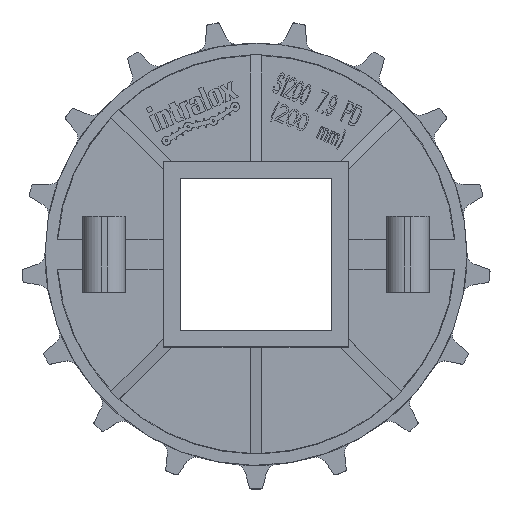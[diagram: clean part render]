
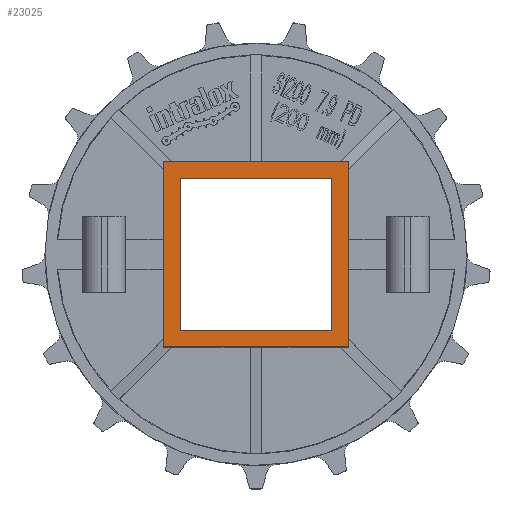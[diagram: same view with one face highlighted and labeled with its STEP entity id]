
A CAD part, top view. The second image highlights one B-rep face of the part: STEP entity #23025.
In plain terms, the highlighted planar face has unit normal (0, 0, 1).
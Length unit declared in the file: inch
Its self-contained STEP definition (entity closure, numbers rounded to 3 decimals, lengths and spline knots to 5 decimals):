
#6284=DIRECTION('',(-1.,0.,0.));
#6285=VECTOR('',#6284,3.05);
#6286=CARTESIAN_POINT('',(1.525,1.525,0.74));
#6287=LINE('',#6286,#6285);
#6288=DIRECTION('',(0.,1.,0.));
#6289=VECTOR('',#6288,3.05);
#6290=CARTESIAN_POINT('',(1.525,-1.525,0.74));
#6291=LINE('',#6290,#6289);
#6292=DIRECTION('',(1.,0.,0.));
#6293=VECTOR('',#6292,3.05);
#6294=CARTESIAN_POINT('',(-1.525,-1.525,0.74));
#6295=LINE('',#6294,#6293);
#6296=DIRECTION('',(0.,-1.,0.));
#6297=VECTOR('',#6296,3.05);
#6298=CARTESIAN_POINT('',(-1.525,1.525,0.74));
#6299=LINE('',#6298,#6297);
#6300=DIRECTION('',(0.,-1.,0.));
#6301=VECTOR('',#6300,2.5);
#6302=CARTESIAN_POINT('',(-1.25,1.25,0.74));
#6303=LINE('',#6302,#6301);
#6304=DIRECTION('',(1.,0.,0.));
#6305=VECTOR('',#6304,2.5);
#6306=CARTESIAN_POINT('',(-1.25,-1.25,0.74));
#6307=LINE('',#6306,#6305);
#6308=DIRECTION('',(0.,1.,0.));
#6309=VECTOR('',#6308,2.5);
#6310=CARTESIAN_POINT('',(1.25,-1.25,0.74));
#6311=LINE('',#6310,#6309);
#6312=DIRECTION('',(-1.,0.,0.));
#6313=VECTOR('',#6312,2.5);
#6314=CARTESIAN_POINT('',(1.25,1.25,0.74));
#6315=LINE('',#6314,#6313);
#13039=CARTESIAN_POINT('',(1.525,1.525,0.74));
#13040=CARTESIAN_POINT('',(-1.525,1.525,0.74));
#13041=VERTEX_POINT('',#13039);
#13042=VERTEX_POINT('',#13040);
#13043=CARTESIAN_POINT('',(-1.525,-1.525,0.74));
#13044=VERTEX_POINT('',#13043);
#13045=CARTESIAN_POINT('',(1.525,-1.525,0.74));
#13046=VERTEX_POINT('',#13045);
#16506=CARTESIAN_POINT('',(-1.25,1.25,0.74));
#16507=CARTESIAN_POINT('',(-1.25,-1.25,0.74));
#16508=VERTEX_POINT('',#16506);
#16509=VERTEX_POINT('',#16507);
#16510=CARTESIAN_POINT('',(1.25,-1.25,0.74));
#16511=VERTEX_POINT('',#16510);
#16512=CARTESIAN_POINT('',(1.25,1.25,0.74));
#16513=VERTEX_POINT('',#16512);
#23008=CARTESIAN_POINT('',(0.,0.,0.74));
#23009=DIRECTION('',(0.,0.,1.));
#23010=DIRECTION('',(1.,0.,0.));
#23011=AXIS2_PLACEMENT_3D('',#23008,#23009,#23010);
#23012=PLANE('',#23011);
#23013=ORIENTED_EDGE('',*,*,#19551,.F.);
#23014=ORIENTED_EDGE('',*,*,#19795,.F.);
#23015=ORIENTED_EDGE('',*,*,#22781,.F.);
#23016=ORIENTED_EDGE('',*,*,#22024,.F.);
#23017=EDGE_LOOP('',(#23013,#23014,#23015,#23016));
#23018=FACE_OUTER_BOUND('',#23017,.F.);
#23019=ORIENTED_EDGE('',*,*,#22960,.T.);
#23020=ORIENTED_EDGE('',*,*,#22975,.T.);
#23021=ORIENTED_EDGE('',*,*,#22989,.T.);
#23022=ORIENTED_EDGE('',*,*,#23002,.T.);
#23023=EDGE_LOOP('',(#23019,#23020,#23021,#23022));
#23024=FACE_BOUND('',#23023,.F.);
#23025=ADVANCED_FACE('',(#23018,#23024),#23012,.T.);
#19551=EDGE_CURVE('',#13041,#13042,#6287,.T.);
#19795=EDGE_CURVE('',#13046,#13041,#6291,.T.);
#22024=EDGE_CURVE('',#13042,#13044,#6299,.T.);
#22781=EDGE_CURVE('',#13044,#13046,#6295,.T.);
#22960=EDGE_CURVE('',#16508,#16509,#6303,.T.);
#22975=EDGE_CURVE('',#16509,#16511,#6307,.T.);
#22989=EDGE_CURVE('',#16511,#16513,#6311,.T.);
#23002=EDGE_CURVE('',#16513,#16508,#6315,.T.);
